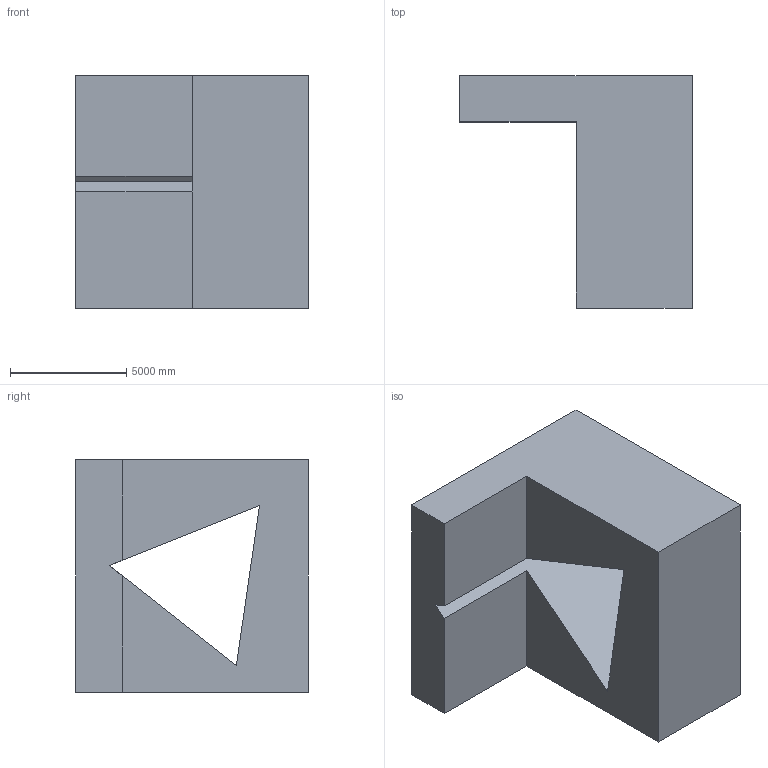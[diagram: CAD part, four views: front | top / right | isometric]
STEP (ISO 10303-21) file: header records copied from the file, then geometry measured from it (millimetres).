
FILE_DESCRIPTION (( 'STEP AP203' ), '1' );
FILE_NAME ('1053.STEP', '2022-08-18T12:34:43', ( 'user' ), ( '' ), 'SwSTEP 2.0', 'SolidWorks 2021', '' );
FILE_SCHEMA (( 'CONFIG_CONTROL_DESIGN' ));
Length unit declared in the file: centimetre
Products named in the file (1): 1053
Bounding box: 10000 x 10000 x 10000 mm (x, y, z)
Volume: 492761397954.8 mm3; surface area: 585113958 mm2
Topology: 1 solids, 1 shells, 12 faces, 33 edges, 22 vertices
Faces by surface type: plane 12
Entity records: 458 total; most frequent: CARTESIAN_POINT 68, ORIENTED_EDGE 66, DIRECTION 59, LINE 33, EDGE_CURVE 33, VECTOR 33, VERTEX_POINT 22, EDGE_LOOP 13
